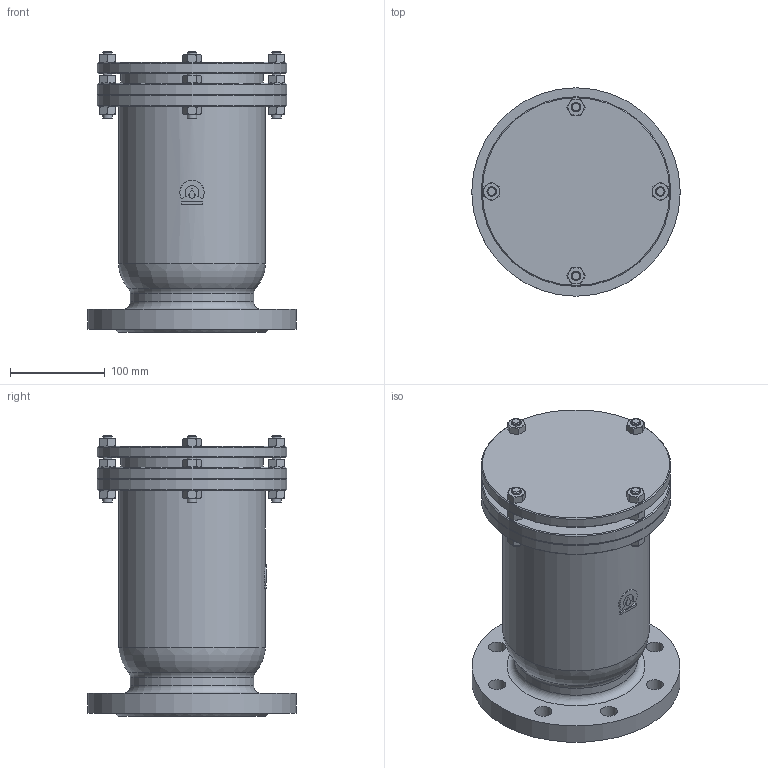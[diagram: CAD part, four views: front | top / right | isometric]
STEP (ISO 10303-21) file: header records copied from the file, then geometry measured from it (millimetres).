
FILE_DESCRIPTION(('STEP AP203'), '1');
FILE_NAME('Òèï A10F - Âîçäóõîîòâîä÷èê îäíîêàìåðíûé DN100', '', ('UNSPECIFIED'), ('UNSPECIFIED'), 'ASCON STEP Converter 1.6', 'ASCON Math Kernel', '');
FILE_SCHEMA(('CONFIG_CONTROL_DESIGN'));
Length unit declared in the file: millimetre
Products named in the file (1): Тип A10F
Bounding box: 220 x 220 x 296 mm (x, y, z)
Volume: 4723193.5 mm3; surface area: 344536.2 mm2
Topology: 1 solids, 1 shells, 304 faces, 673 edges, 394 vertices
Faces by surface type: cone 153, plane 112, cylinder 36, torus 3
Full cylindrical faces by diameter (mm): 10 x12, 18 x8, 100 x1, 130 x1, 150 x1, 155 x1, 198 x1, 200 x3, 220 x1
Entity records: 17137 total; most frequent: CARTESIAN_POINT 8538, ORIENTED_EDGE 1256, DIRECTION 1177, EDGE_CURVE 628, AXIS2_PLACEMENT_3D 541, EDGE_LOOP 400, VERTEX_POINT 392, FACE_BOUND 325
